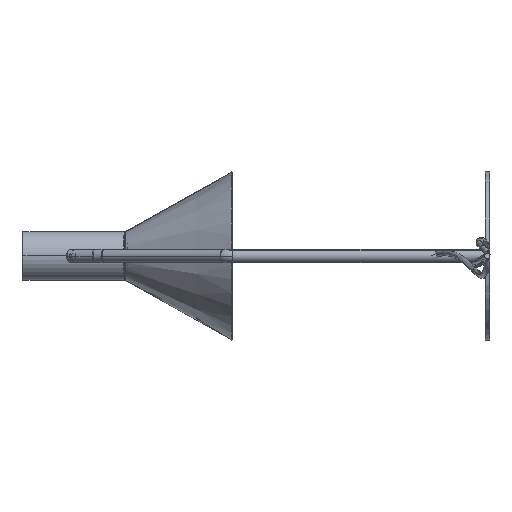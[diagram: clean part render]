
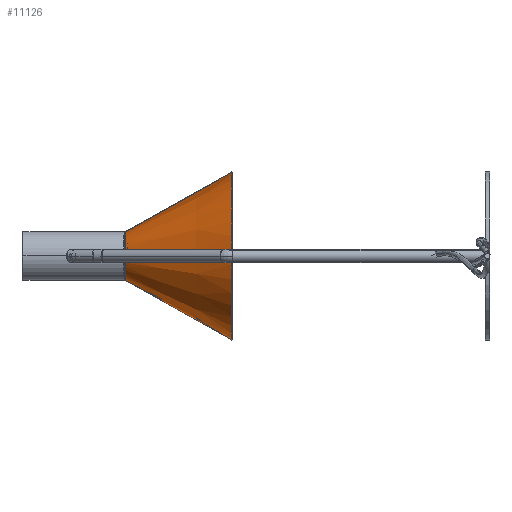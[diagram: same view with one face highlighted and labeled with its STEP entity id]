
A CAD part, left-side view. The second image highlights one B-rep face of the part: STEP entity #11126.
In plain terms, the highlighted conical face has half-angle 29.31 degrees and reference radius 26.287 mm.
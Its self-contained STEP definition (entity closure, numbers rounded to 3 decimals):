
#62 = VERTEX_POINT ( 'NONE', #9216 ) ;
#103 = AXIS2_PLACEMENT_3D ( 'NONE', #8392, #13055, #2600 ) ;
#489 = CARTESIAN_POINT ( 'NONE',  ( 0., 113.49, 0. ) ) ;
#1512 = DIRECTION ( 'NONE',  ( 0., 0., -1. ) ) ;
#1967 = CIRCLE ( 'NONE', #10465, 26.287 ) ;
#2552 = EDGE_CURVE ( 'NONE', #9388, #11730, #1967, .T. ) ;
#2600 = DIRECTION ( 'NONE',  ( 0., 0., -1. ) ) ;
#2796 = VECTOR ( 'NONE', #9166, 1000. ) ;
#4526 = CARTESIAN_POINT ( 'NONE',  ( 0., 113.49, -26.287 ) ) ;
#4803 = LINE ( 'NONE', #9442, #5195 ) ;
#4839 = CONICAL_SURFACE ( 'NONE', #13376, 26.287, 0.512 ) ;
#5133 = DIRECTION ( 'NONE',  ( 0., -1., 0. ) ) ;
#5195 = VECTOR ( 'NONE', #14099, 1000. ) ;
#5333 = ORIENTED_EDGE ( 'NONE', *, *, #2552, .T. ) ;
#5749 = EDGE_CURVE ( 'NONE', #11730, #13683, #14980, .T. ) ;
#5804 = EDGE_CURVE ( 'NONE', #62, #13683, #13275, .T. ) ;
#6473 = EDGE_LOOP ( 'NONE', ( #9293, #5333, #12259, #11319 ) ) ;
#7311 = CARTESIAN_POINT ( 'NONE',  ( 0., 113.49, 0. ) ) ;
#8392 = CARTESIAN_POINT ( 'NONE',  ( 0., 0., 0. ) ) ;
#9166 = DIRECTION ( 'NONE',  ( 0., -0.872, -0.49 ) ) ;
#9203 = CARTESIAN_POINT ( 'NONE',  ( 0., 113.49, -26.287 ) ) ;
#9216 = CARTESIAN_POINT ( 'NONE',  ( 0., 0., 90. ) ) ;
#9293 = ORIENTED_EDGE ( 'NONE', *, *, #14208, .F. ) ;
#9388 = VERTEX_POINT ( 'NONE', #11678 ) ;
#9442 = CARTESIAN_POINT ( 'NONE',  ( 0., 113.49, 26.287 ) ) ;
#9780 = DIRECTION ( 'NONE',  ( 0., 0., -1. ) ) ;
#10465 = AXIS2_PLACEMENT_3D ( 'NONE', #7311, #11948, #1512 ) ;
#10923 = FACE_OUTER_BOUND ( 'NONE', #6473, .T. ) ;
#11126 = ADVANCED_FACE ( 'NONE', ( #10923 ), #4839, .T. ) ;
#11319 = ORIENTED_EDGE ( 'NONE', *, *, #5804, .F. ) ;
#11678 = CARTESIAN_POINT ( 'NONE',  ( 0., 113.49, 26.287 ) ) ;
#11730 = VERTEX_POINT ( 'NONE', #9203 ) ;
#11753 = CARTESIAN_POINT ( 'NONE',  ( 0., 0., -90. ) ) ;
#11948 = DIRECTION ( 'NONE',  ( 0., -1., 0. ) ) ;
#12259 = ORIENTED_EDGE ( 'NONE', *, *, #5749, .T. ) ;
#13055 = DIRECTION ( 'NONE',  ( 0., -1., 0. ) ) ;
#13275 = CIRCLE ( 'NONE', #103, 90. ) ;
#13376 = AXIS2_PLACEMENT_3D ( 'NONE', #489, #5133, #9780 ) ;
#13683 = VERTEX_POINT ( 'NONE', #11753 ) ;
#14099 = DIRECTION ( 'NONE',  ( 0., -0.872, 0.49 ) ) ;
#14208 = EDGE_CURVE ( 'NONE', #9388, #62, #4803, .T. ) ;
#14980 = LINE ( 'NONE', #4526, #2796 ) ;
